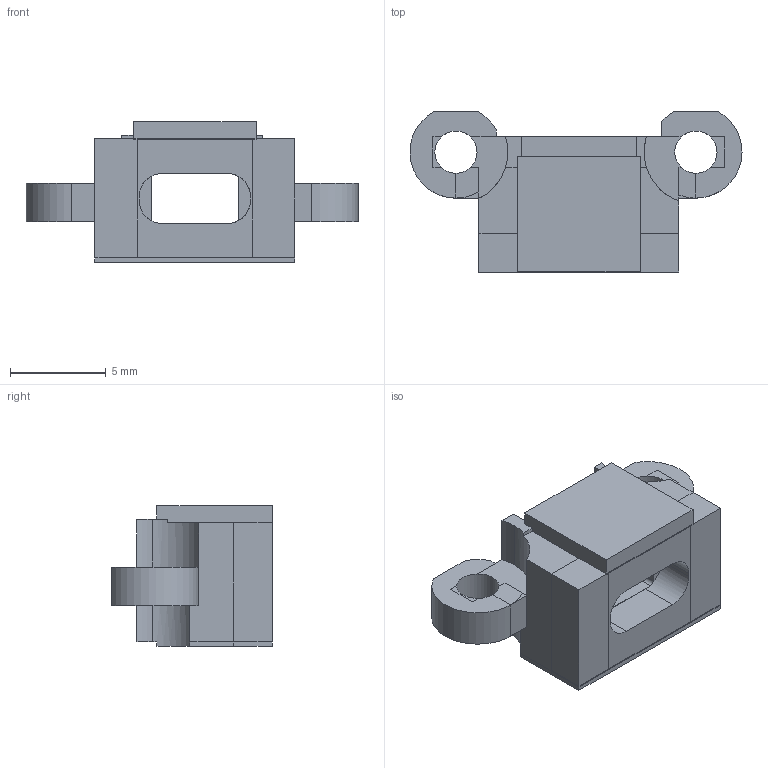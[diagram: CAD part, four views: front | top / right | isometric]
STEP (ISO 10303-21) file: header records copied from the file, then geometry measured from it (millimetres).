
FILE_DESCRIPTION(('Open CASCADE Model'),'2;1');
FILE_NAME('Open CASCADE Shape Model','2026-09-15T15:19:20',('Author'),( 'Open CASCADE'),'Open CASCADE STEP processor 7.7','Open CASCADE 7.7' ,'Unknown');
FILE_SCHEMA(('AUTOMOTIVE_DESIGN { 1 0 10303 214 1 1 1 1 }'));
Length unit declared in the file: millimetre
Products named in the file (1): Open CASCADE STEP translator 7.7 1
Bounding box: 17.29 x 8.35 x 7.33 mm (x, y, z)
Volume: 403.2 mm3; surface area: 562.2 mm2
Topology: 1 solids, 1 shells, 129 faces, 354 edges, 223 vertices
Faces by surface type: plane 108, cylinder 21
Full cylindrical faces by diameter (mm): 2.2 x2
Entity records: 8537 total; most frequent: CARTESIAN_POINT 1679, DIRECTION 1219, ORIENTED_EDGE 708, PCURVE 708, DEFINITIONAL_REPRESENTATION 708, LINE 704, VECTOR 704, EDGE_CURVE 354
